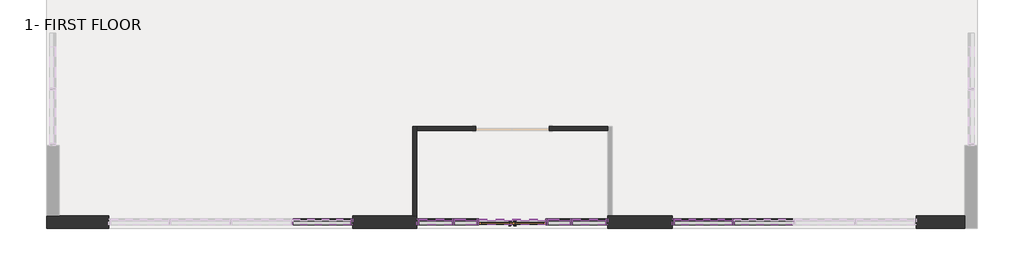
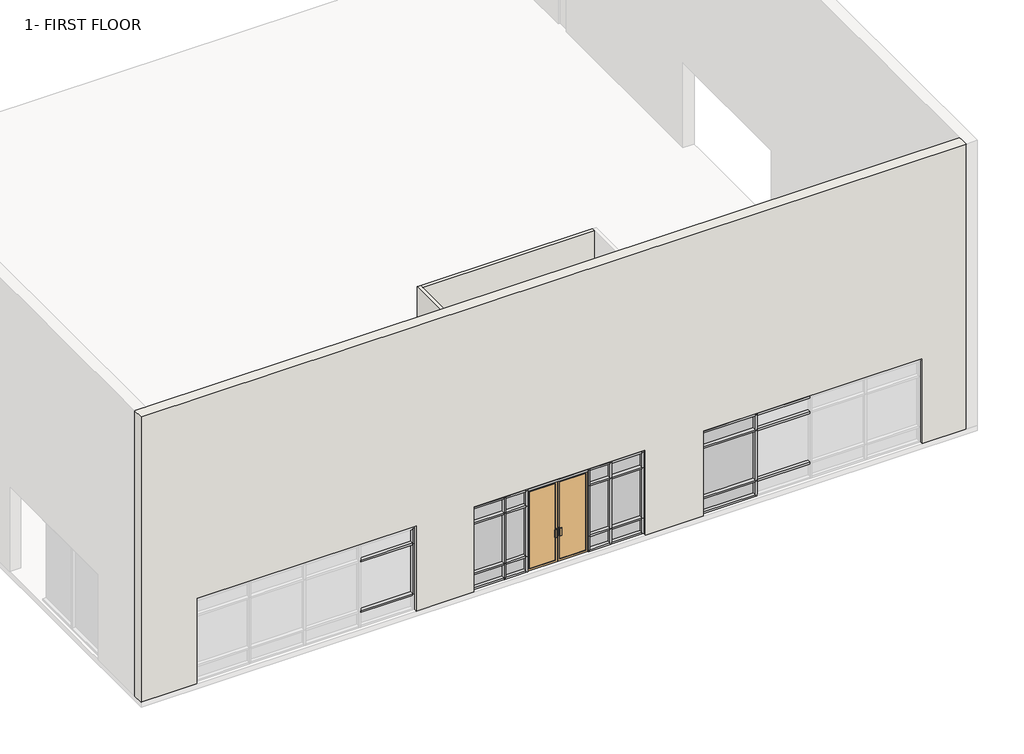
# One storey, part 2 of 4: 67 members, 21 plates, 3 walls, 1 door.
"""IFC4 building model written with IfcOpenShell, lengths in millimetres."""

from ifc_helpers import new_model, si_unit, frame, origin, place, context, project, spatial, polyline, outline, extrude, faceted_brep, transform, mapped, element, save
from components import door_curtain_wall_double_storefront_door_curtain_wall_double_9c4819b0, rectangular_mullion_50_x_150mm_84181acf, rectangular_mullion_50_x_150mm_a8ea6182, rectangular_mullion_50_x_150mm_ba57f92b, rectangular_mullion_50_x_150mm_e62fc784, rectangular_mullion_50_x_150mm_6cfa6b5a, rectangular_mullion_50_x_150mm_d1bc8d35, rectangular_mullion_50_x_150mm_f682063e, rectangular_mullion_50_x_150mm_d689bbf2, rectangular_mullion_50_x_150mm_372c5efd, rectangular_mullion_50_x_150mm_3e65a84e, rectangular_mullion_50_x_150mm_abe4d200, rectangular_mullion_50_x_150mm_1929d193, rectangular_mullion_50_x_150mm_e5e1dcca, rectangular_mullion_50_x_150mm_686aa266, rectangular_mullion_50_x_150mm_8236aad0, rectangular_mullion_50_x_150mm_3b5711fc, system_panel_glazed_f154e865, system_panel_glazed_82870b35, system_panel_glazed_7ab80184, system_panel_glazed_378a796b, system_panel_glazed_7ee34cb0, system_panel_glazed_bfac3f35, system_panel_glazed_7bd62287, system_panel_glazed_4b0897f9, system_panel_glazed_4d81ba74, system_panel_glazed_bda3f379, system_panel_glazed_802e9393, system_panel_glazed_bf61f423, system_panel_glazed_3f87003b

model = new_model("IFC4")

# Units and contexts
model_context = context("Model", 3, world=origin())
ifc_project = project(units=[si_unit("LENGTHUNIT", "METRE", prefix="MILLI")], contexts=[model_context])

# Site, building, storey
site = spatial("IfcSite", under=ifc_project)
building = spatial("IfcBuilding", under=site)
storey = spatial("IfcBuildingStorey", under=building, Name="1- FIRST FLOOR", Elevation=0.0)

# Door
placement = place(None, origin())
door_curtain_wall_double_storefront_door_curtain_wall_double_shape = door_curtain_wall_double_storefront_door_curtain_wall_double_9c4819b0(model_context)
element("IfcDoor", 1, ObjectType="Door-Curtain-Wall-Double-Storefront : Door-Curtain-Wall-Double-Storefront", at=placement, inside=storey, context=model_context, shape_type="MappedRepresentation", body=[
    mapped(door_curtain_wall_double_storefront_door_curtain_wall_double_shape, transform((-5903.5879871, -12710.1838332, 0.0), x_axis=(1.0, 0.0, 0.0), y_axis=(0.0, 1.0, 0.0), z_axis=(0.0, 0.0, 1.0))),
])

# Members
rectangular_mullion_50_x_150mm_shape = rectangular_mullion_50_x_150mm_84181acf(model_context)
element("IfcMember", 2, ObjectType="Rectangular Mullion : 50 x 150mm", at=placement, inside=storey, context=model_context, shape_type="MappedRepresentation", body=[
    mapped(rectangular_mullion_50_x_150mm_shape, transform((-6767.1879871, -12710.1838332, 2400.0), x_axis=(1.0, 0.0, 0.0), y_axis=(0.0, -1.0, 0.0), z_axis=(0.0, 0.0, -1.0))),
])
element("IfcMember", 3, ObjectType="Rectangular Mullion : 50 x 150mm", at=placement, inside=storey, context=model_context, shape_type="MappedRepresentation", body=[
    mapped(rectangular_mullion_50_x_150mm_shape, transform((-5039.9879871, -12710.1838332, 2400.0), x_axis=(1.0, 0.0, 0.0), y_axis=(0.0, -1.0, 0.0), z_axis=(0.0, 0.0, -1.0))),
])
element("IfcMember", 4, ObjectType="Rectangular Mullion : 50 x 150mm", at=placement, inside=storey, context=model_context, shape_type="MappedRepresentation", body=[
    mapped(rectangular_mullion_50_x_150mm_shape, transform((-4430.3879871, -12710.1838332, 2400.0), x_axis=(1.0, 0.0, 0.0), y_axis=(0.0, -1.0, 0.0), z_axis=(0.0, 0.0, -1.0))),
])
element("IfcMember", 5, ObjectType="Rectangular Mullion : 50 x 150mm", at=placement, inside=storey, context=model_context, shape_type="MappedRepresentation", body=[
    mapped(rectangular_mullion_50_x_150mm_shape, transform((-7376.7879871, -12710.1838332, 2400.0), x_axis=(1.0, 0.0, 0.0), y_axis=(0.0, -1.0, 0.0), z_axis=(0.0, 0.0, -1.0))),
])
rectangular_mullion_50_x_150mm_2_shape = rectangular_mullion_50_x_150mm_a8ea6182(model_context)
element("IfcMember", 6, ObjectType="Rectangular Mullion : 50 x 150mm", at=placement, inside=storey, context=model_context, shape_type="MappedRepresentation", body=[
    mapped(rectangular_mullion_50_x_150mm_2_shape, transform((-3515.9879871, -12710.1838332, 2400.0), x_axis=(1.0, 0.0, 0.0), y_axis=(0.0, -1.0, 0.0), z_axis=(0.0, 0.0, -1.0))),
])
element("IfcMember", 7, ObjectType="Rectangular Mullion : 50 x 150mm", at=placement, inside=storey, context=model_context, shape_type="MappedRepresentation", body=[
    mapped(rectangular_mullion_50_x_150mm_2_shape, transform((-8291.1879871, -12710.1838332, 2508.25), x_axis=(-1.0, 0.0, 0.0), y_axis=(0.0, -1.0, 0.0), z_axis=(0.0, 0.0, 1.0))),
])
element("IfcMember", 8, ObjectType="Rectangular Mullion : 50 x 150mm", at=placement, inside=storey, context=model_context, shape_type="MappedRepresentation", body=[
    mapped(rectangular_mullion_50_x_150mm_shape, transform((-389.787987, -12710.1838332, 2400.0), x_axis=(-1.0, 0.0, 0.0), y_axis=(0.0, 1.0, 0.0), z_axis=(0.0, 0.0, -1.0))),
])
element("IfcMember", 9, ObjectType="Rectangular Mullion : 50 x 150mm", at=placement, inside=storey, context=model_context, shape_type="MappedRepresentation", body=[
    mapped(rectangular_mullion_50_x_150mm_2_shape, transform((-1913.7879871, -12710.1838332, 2400.0), x_axis=(-1.0, 0.0, 0.0), y_axis=(0.0, 1.0, 0.0), z_axis=(0.0, 0.0, -1.0))),
])
rectangular_mullion_50_x_150mm_3_shape = rectangular_mullion_50_x_150mm_ba57f92b(model_context)
element("IfcMember", 10, ObjectType="Rectangular Mullion : 50 x 150mm", at=placement, inside=storey, context=model_context, shape_type="MappedRepresentation", body=[
    mapped(rectangular_mullion_50_x_150mm_3_shape, transform((-3565.9879871, -12710.1838332, 2508.25), x_axis=(0.0, 0.0, 1.0), y_axis=(0.0, -1.0, 0.0), z_axis=(1.0, 0.0, 0.0))),
])
element("IfcMember", 11, ObjectType="Rectangular Mullion : 50 x 150mm", at=placement, inside=storey, context=model_context, shape_type="MappedRepresentation", body=[
    mapped(rectangular_mullion_50_x_150mm_3_shape, transform((-7401.7879871, -12710.1838332, 2508.25), x_axis=(0.0, 0.0, 1.0), y_axis=(0.0, -1.0, 0.0), z_axis=(1.0, 0.0, 0.0))),
])
element("IfcMember", 12, ObjectType="Rectangular Mullion : 50 x 150mm", at=placement, inside=storey, context=model_context, shape_type="MappedRepresentation", body=[
    mapped(rectangular_mullion_50_x_150mm_3_shape, transform((-8241.1879871, -12710.1838332, 0.0), x_axis=(0.0, 0.0, -1.0), y_axis=(0.0, -1.0, 0.0), z_axis=(-1.0, 0.0, 0.0))),
])
element("IfcMember", 13, ObjectType="Rectangular Mullion : 50 x 150mm", at=placement, inside=storey, context=model_context, shape_type="MappedRepresentation", body=[
    mapped(rectangular_mullion_50_x_150mm_3_shape, transform((-4405.3879871, -12710.1838332, 0.0), x_axis=(0.0, 0.0, -1.0), y_axis=(0.0, -1.0, 0.0), z_axis=(-1.0, 0.0, 0.0))),
])
rectangular_mullion_50_x_150mm_4_shape = rectangular_mullion_50_x_150mm_e62fc784(model_context)
element("IfcMember", 14, ObjectType="Rectangular Mullion : 50 x 150mm", at=placement, inside=storey, context=model_context, shape_type="MappedRepresentation", body=[
    mapped(rectangular_mullion_50_x_150mm_4_shape, transform((-7401.7879871, -12710.1838332, 2400.0), x_axis=(0.0, 0.0, 1.0), y_axis=(0.0, -1.0, 0.0), z_axis=(1.0, 0.0, 0.0))),
])
element("IfcMember", 15, ObjectType="Rectangular Mullion : 50 x 150mm", at=placement, inside=storey, context=model_context, shape_type="MappedRepresentation", body=[
    mapped(rectangular_mullion_50_x_150mm_4_shape, transform((-3565.9879871, -12710.1838332, 2400.0), x_axis=(0.0, 0.0, 1.0), y_axis=(0.0, -1.0, 0.0), z_axis=(1.0, 0.0, 0.0))),
])
element("IfcMember", 16, ObjectType="Rectangular Mullion : 50 x 150mm", at=placement, inside=storey, context=model_context, shape_type="MappedRepresentation", body=[
    mapped(rectangular_mullion_50_x_150mm_4_shape, transform((-7401.7879871, -12710.1838332, 1942.8), x_axis=(0.0, 0.0, 1.0), y_axis=(0.0, -1.0, 0.0), z_axis=(1.0, 0.0, 0.0))),
])
element("IfcMember", 17, ObjectType="Rectangular Mullion : 50 x 150mm", at=placement, inside=storey, context=model_context, shape_type="MappedRepresentation", body=[
    mapped(rectangular_mullion_50_x_150mm_4_shape, transform((-3565.9879871, -12710.1838332, 1942.8), x_axis=(0.0, 0.0, 1.0), y_axis=(0.0, -1.0, 0.0), z_axis=(1.0, 0.0, 0.0))),
])
element("IfcMember", 18, ObjectType="Rectangular Mullion : 50 x 150mm", at=placement, inside=storey, context=model_context, shape_type="MappedRepresentation", body=[
    mapped(rectangular_mullion_50_x_150mm_4_shape, transform((-7401.7879871, -12710.1838332, 457.2), x_axis=(0.0, 0.0, 1.0), y_axis=(0.0, -1.0, 0.0), z_axis=(1.0, 0.0, 0.0))),
])
element("IfcMember", 19, ObjectType="Rectangular Mullion : 50 x 150mm", at=placement, inside=storey, context=model_context, shape_type="MappedRepresentation", body=[
    mapped(rectangular_mullion_50_x_150mm_4_shape, transform((-3565.9879871, -12710.1838332, 457.2), x_axis=(0.0, 0.0, 1.0), y_axis=(0.0, -1.0, 0.0), z_axis=(1.0, 0.0, 0.0))),
])
rectangular_mullion_50_x_150mm_5_shape = rectangular_mullion_50_x_150mm_6cfa6b5a(model_context)
element("IfcMember", 20, ObjectType="Rectangular Mullion : 50 x 150mm", at=placement, inside=storey, context=model_context, shape_type="MappedRepresentation", body=[
    mapped(rectangular_mullion_50_x_150mm_5_shape, transform((-6792.1879871, -12710.1838332, 2508.25), x_axis=(0.0, 0.0, 1.0), y_axis=(0.0, -1.0, 0.0), z_axis=(1.0, 0.0, 0.0))),
])
element("IfcMember", 21, ObjectType="Rectangular Mullion : 50 x 150mm", at=placement, inside=storey, context=model_context, shape_type="MappedRepresentation", body=[
    mapped(rectangular_mullion_50_x_150mm_5_shape, transform((-4455.3879871, -12710.1838332, 2508.25), x_axis=(0.0, 0.0, 1.0), y_axis=(0.0, -1.0, 0.0), z_axis=(1.0, 0.0, 0.0))),
])
element("IfcMember", 22, ObjectType="Rectangular Mullion : 50 x 150mm", at=placement, inside=storey, context=model_context, shape_type="MappedRepresentation", body=[
    mapped(rectangular_mullion_50_x_150mm_5_shape, transform((-5014.9879871, -12710.1838332, 0.0), x_axis=(0.0, 0.0, -1.0), y_axis=(0.0, -1.0, 0.0), z_axis=(-1.0, 0.0, 0.0))),
])
element("IfcMember", 23, ObjectType="Rectangular Mullion : 50 x 150mm", at=placement, inside=storey, context=model_context, shape_type="MappedRepresentation", body=[
    mapped(rectangular_mullion_50_x_150mm_5_shape, transform((-7351.7879871, -12710.1838332, 0.0), x_axis=(0.0, 0.0, -1.0), y_axis=(0.0, -1.0, 0.0), z_axis=(-1.0, 0.0, 0.0))),
])
rectangular_mullion_50_x_150mm_6_shape = rectangular_mullion_50_x_150mm_d1bc8d35(model_context)
element("IfcMember", 24, ObjectType="Rectangular Mullion : 50 x 150mm", at=placement, inside=storey, context=model_context, shape_type="MappedRepresentation", body=[
    mapped(rectangular_mullion_50_x_150mm_6_shape, transform((-4455.3879871, -12710.1838332, 2400.0), x_axis=(0.0, 0.0, 1.0), y_axis=(0.0, -1.0, 0.0), z_axis=(1.0, 0.0, 0.0))),
])
element("IfcMember", 25, ObjectType="Rectangular Mullion : 50 x 150mm", at=placement, inside=storey, context=model_context, shape_type="MappedRepresentation", body=[
    mapped(rectangular_mullion_50_x_150mm_6_shape, transform((-6792.1879871, -12710.1838332, 2400.0), x_axis=(0.0, 0.0, 1.0), y_axis=(0.0, -1.0, 0.0), z_axis=(1.0, 0.0, 0.0))),
])
element("IfcMember", 26, ObjectType="Rectangular Mullion : 50 x 150mm", at=placement, inside=storey, context=model_context, shape_type="MappedRepresentation", body=[
    mapped(rectangular_mullion_50_x_150mm_6_shape, transform((-6792.1879871, -12710.1838332, 1942.8), x_axis=(0.0, 0.0, 1.0), y_axis=(0.0, -1.0, 0.0), z_axis=(1.0, 0.0, 0.0))),
])
element("IfcMember", 27, ObjectType="Rectangular Mullion : 50 x 150mm", at=placement, inside=storey, context=model_context, shape_type="MappedRepresentation", body=[
    mapped(rectangular_mullion_50_x_150mm_6_shape, transform((-4455.3879871, -12710.1838332, 1942.8), x_axis=(0.0, 0.0, 1.0), y_axis=(0.0, -1.0, 0.0), z_axis=(1.0, 0.0, 0.0))),
])
element("IfcMember", 28, ObjectType="Rectangular Mullion : 50 x 150mm", at=placement, inside=storey, context=model_context, shape_type="MappedRepresentation", body=[
    mapped(rectangular_mullion_50_x_150mm_6_shape, transform((-6792.1879871, -12710.1838332, 457.2), x_axis=(0.0, 0.0, 1.0), y_axis=(0.0, -1.0, 0.0), z_axis=(1.0, 0.0, 0.0))),
])
element("IfcMember", 29, ObjectType="Rectangular Mullion : 50 x 150mm", at=placement, inside=storey, context=model_context, shape_type="MappedRepresentation", body=[
    mapped(rectangular_mullion_50_x_150mm_6_shape, transform((-4455.3879871, -12710.1838332, 457.2), x_axis=(0.0, 0.0, 1.0), y_axis=(0.0, -1.0, 0.0), z_axis=(1.0, 0.0, 0.0))),
])
rectangular_mullion_50_x_150mm_7_shape = rectangular_mullion_50_x_150mm_f682063e(model_context)
element("IfcMember", 30, ObjectType="Rectangular Mullion : 50 x 150mm", at=placement, inside=storey, context=model_context, shape_type="MappedRepresentation", body=[
    mapped(rectangular_mullion_50_x_150mm_7_shape, transform((-5064.9879871, -12710.1838332, 2508.25), x_axis=(0.0, 0.0, 1.0), y_axis=(0.0, -1.0, 0.0), z_axis=(1.0, 0.0, 0.0))),
])
rectangular_mullion_50_x_150mm_8_shape = rectangular_mullion_50_x_150mm_d689bbf2(model_context)
element("IfcMember", 31, ObjectType="Rectangular Mullion : 50 x 150mm", at=placement, inside=storey, context=model_context, shape_type="MappedRepresentation", body=[
    mapped(rectangular_mullion_50_x_150mm_8_shape, transform((-5064.9879871, -12710.1838332, 2400.0), x_axis=(0.0, 0.0, 1.0), y_axis=(0.0, -1.0, 0.0), z_axis=(1.0, 0.0, 0.0))),
])
rectangular_mullion_50_x_150mm_9_shape = rectangular_mullion_50_x_150mm_372c5efd(model_context)
element("IfcMember", 32, ObjectType="Rectangular Mullion : 50 x 150mm", at=placement, inside=storey, context=model_context, shape_type="MappedRepresentation", body=[
    mapped(rectangular_mullion_50_x_150mm_9_shape, transform((-9943.3879871, -12710.1838332, 1942.8), x_axis=(0.0, 0.0, 1.0), y_axis=(0.0, -1.0, 0.0), z_axis=(1.0, 0.0, 0.0))),
])
element("IfcMember", 33, ObjectType="Rectangular Mullion : 50 x 150mm", at=placement, inside=storey, context=model_context, shape_type="MappedRepresentation", body=[
    mapped(rectangular_mullion_50_x_150mm_9_shape, transform((-9943.3879871, -12710.1838332, 457.2), x_axis=(0.0, 0.0, 1.0), y_axis=(0.0, -1.0, 0.0), z_axis=(1.0, 0.0, 0.0))),
])
rectangular_mullion_50_x_150mm_10_shape = rectangular_mullion_50_x_150mm_3e65a84e(model_context)
element("IfcMember", 34, ObjectType="Rectangular Mullion : 50 x 150mm", at=placement, inside=storey, context=model_context, shape_type="MappedRepresentation", body=[
    mapped(rectangular_mullion_50_x_150mm_10_shape, transform((-1863.7879871, -12710.1838332, 2508.25), x_axis=(0.0, 0.0, 1.0), y_axis=(0.0, 1.0, 0.0), z_axis=(-1.0, 0.0, 0.0))),
])
rectangular_mullion_50_x_150mm_11_shape = rectangular_mullion_50_x_150mm_abe4d200(model_context)
element("IfcMember", 35, ObjectType="Rectangular Mullion : 50 x 150mm", at=placement, inside=storey, context=model_context, shape_type="MappedRepresentation", body=[
    mapped(rectangular_mullion_50_x_150mm_11_shape, transform((-364.787987, -12710.1838332, 2508.25), x_axis=(0.0, 0.0, 1.0), y_axis=(0.0, 1.0, 0.0), z_axis=(-1.0, 0.0, 0.0))),
])
element("IfcMember", 36, ObjectType="Rectangular Mullion : 50 x 150mm", at=placement, inside=storey, context=model_context, shape_type="MappedRepresentation", body=[
    mapped(rectangular_mullion_50_x_150mm_10_shape, transform((-414.787987, -12710.1838332, 0.0), x_axis=(0.0, 0.0, -1.0), y_axis=(0.0, 1.0, 0.0), z_axis=(1.0, 0.0, 0.0))),
])
element("IfcMember", 37, ObjectType="Rectangular Mullion : 50 x 150mm", at=placement, inside=storey, context=model_context, shape_type="MappedRepresentation", body=[
    mapped(rectangular_mullion_50_x_150mm_9_shape, transform((-1863.7879871, -12710.1838332, 2400.0), x_axis=(0.0, 0.0, 1.0), y_axis=(0.0, 1.0, 0.0), z_axis=(-1.0, 0.0, 0.0))),
])
rectangular_mullion_50_x_150mm_12_shape = rectangular_mullion_50_x_150mm_1929d193(model_context)
element("IfcMember", 38, ObjectType="Rectangular Mullion : 50 x 150mm", at=placement, inside=storey, context=model_context, shape_type="MappedRepresentation", body=[
    mapped(rectangular_mullion_50_x_150mm_12_shape, transform((-364.787987, -12710.1838332, 2400.0), x_axis=(0.0, 0.0, 1.0), y_axis=(0.0, 1.0, 0.0), z_axis=(-1.0, 0.0, 0.0))),
])
rectangular_mullion_50_x_150mm_13_shape = rectangular_mullion_50_x_150mm_e5e1dcca(model_context)
element("IfcMember", 39, ObjectType="Rectangular Mullion : 50 x 150mm", at=placement, inside=storey, context=model_context, shape_type="MappedRepresentation", body=[
    mapped(rectangular_mullion_50_x_150mm_13_shape, transform((-7376.7879871, -12710.1838332, 1942.8), x_axis=(1.0, 0.0, 0.0), y_axis=(0.0, -1.0, 0.0), z_axis=(0.0, 0.0, -1.0))),
])
element("IfcMember", 40, ObjectType="Rectangular Mullion : 50 x 150mm", at=placement, inside=storey, context=model_context, shape_type="MappedRepresentation", body=[
    mapped(rectangular_mullion_50_x_150mm_13_shape, transform((-6767.1879871, -12710.1838332, 1942.8), x_axis=(1.0, 0.0, 0.0), y_axis=(0.0, -1.0, 0.0), z_axis=(0.0, 0.0, -1.0))),
])
element("IfcMember", 41, ObjectType="Rectangular Mullion : 50 x 150mm", at=placement, inside=storey, context=model_context, shape_type="MappedRepresentation", body=[
    mapped(rectangular_mullion_50_x_150mm_13_shape, transform((-5039.9879871, -12710.1838332, 1942.8), x_axis=(1.0, 0.0, 0.0), y_axis=(0.0, -1.0, 0.0), z_axis=(0.0, 0.0, -1.0))),
])
element("IfcMember", 42, ObjectType="Rectangular Mullion : 50 x 150mm", at=placement, inside=storey, context=model_context, shape_type="MappedRepresentation", body=[
    mapped(rectangular_mullion_50_x_150mm_13_shape, transform((-4430.3879871, -12710.1838332, 1942.8), x_axis=(1.0, 0.0, 0.0), y_axis=(0.0, -1.0, 0.0), z_axis=(0.0, 0.0, -1.0))),
])
rectangular_mullion_50_x_150mm_14_shape = rectangular_mullion_50_x_150mm_686aa266(model_context)
element("IfcMember", 43, ObjectType="Rectangular Mullion : 50 x 150mm", at=placement, inside=storey, context=model_context, shape_type="MappedRepresentation", body=[
    mapped(rectangular_mullion_50_x_150mm_14_shape, transform((-8291.1879871, -12710.1838332, 2400.0), x_axis=(-1.0, 0.0, 0.0), y_axis=(0.0, -1.0, 0.0), z_axis=(0.0, 0.0, 1.0))),
])
element("IfcMember", 44, ObjectType="Rectangular Mullion : 50 x 150mm", at=placement, inside=storey, context=model_context, shape_type="MappedRepresentation", body=[
    mapped(rectangular_mullion_50_x_150mm_14_shape, transform((-9893.3879871, -12710.1838332, 1942.8), x_axis=(1.0, 0.0, 0.0), y_axis=(0.0, -1.0, 0.0), z_axis=(0.0, 0.0, -1.0))),
])
element("IfcMember", 45, ObjectType="Rectangular Mullion : 50 x 150mm", at=placement, inside=storey, context=model_context, shape_type="MappedRepresentation", body=[
    mapped(rectangular_mullion_50_x_150mm_14_shape, transform((-3515.9879871, -12710.1838332, 1942.8), x_axis=(1.0, 0.0, 0.0), y_axis=(0.0, -1.0, 0.0), z_axis=(0.0, 0.0, -1.0))),
])
element("IfcMember", 46, ObjectType="Rectangular Mullion : 50 x 150mm", at=placement, inside=storey, context=model_context, shape_type="MappedRepresentation", body=[
    mapped(rectangular_mullion_50_x_150mm_13_shape, transform((-6767.1879871, -12710.1838332, 0.0), x_axis=(1.0, 0.0, 0.0), y_axis=(0.0, -1.0, 0.0), z_axis=(0.0, 0.0, -1.0))),
])
element("IfcMember", 47, ObjectType="Rectangular Mullion : 50 x 150mm", at=placement, inside=storey, context=model_context, shape_type="MappedRepresentation", body=[
    mapped(rectangular_mullion_50_x_150mm_13_shape, transform((-5039.9879871, -12710.1838332, 0.0), x_axis=(1.0, 0.0, 0.0), y_axis=(0.0, -1.0, 0.0), z_axis=(0.0, 0.0, -1.0))),
])
element("IfcMember", 48, ObjectType="Rectangular Mullion : 50 x 150mm", at=placement, inside=storey, context=model_context, shape_type="MappedRepresentation", body=[
    mapped(rectangular_mullion_50_x_150mm_13_shape, transform((-4430.3879871, -12710.1838332, 0.0), x_axis=(1.0, 0.0, 0.0), y_axis=(0.0, -1.0, 0.0), z_axis=(0.0, 0.0, -1.0))),
])
element("IfcMember", 49, ObjectType="Rectangular Mullion : 50 x 150mm", at=placement, inside=storey, context=model_context, shape_type="MappedRepresentation", body=[
    mapped(rectangular_mullion_50_x_150mm_13_shape, transform((-7376.7879871, -12710.1838332, 0.0), x_axis=(1.0, 0.0, 0.0), y_axis=(0.0, -1.0, 0.0), z_axis=(0.0, 0.0, -1.0))),
])
rectangular_mullion_50_x_150mm_15_shape = rectangular_mullion_50_x_150mm_8236aad0(model_context)
element("IfcMember", 50, ObjectType="Rectangular Mullion : 50 x 150mm", at=placement, inside=storey, context=model_context, shape_type="MappedRepresentation", body=[
    mapped(rectangular_mullion_50_x_150mm_15_shape, transform((-7376.7879871, -12710.1838332, 457.2), x_axis=(1.0, 0.0, 0.0), y_axis=(0.0, -1.0, 0.0), z_axis=(0.0, 0.0, -1.0))),
])
element("IfcMember", 51, ObjectType="Rectangular Mullion : 50 x 150mm", at=placement, inside=storey, context=model_context, shape_type="MappedRepresentation", body=[
    mapped(rectangular_mullion_50_x_150mm_15_shape, transform((-6767.1879871, -12710.1838332, 457.2), x_axis=(1.0, 0.0, 0.0), y_axis=(0.0, -1.0, 0.0), z_axis=(0.0, 0.0, -1.0))),
])
element("IfcMember", 52, ObjectType="Rectangular Mullion : 50 x 150mm", at=placement, inside=storey, context=model_context, shape_type="MappedRepresentation", body=[
    mapped(rectangular_mullion_50_x_150mm_15_shape, transform((-5039.9879871, -12710.1838332, 457.2), x_axis=(1.0, 0.0, 0.0), y_axis=(0.0, -1.0, 0.0), z_axis=(0.0, 0.0, -1.0))),
])
element("IfcMember", 53, ObjectType="Rectangular Mullion : 50 x 150mm", at=placement, inside=storey, context=model_context, shape_type="MappedRepresentation", body=[
    mapped(rectangular_mullion_50_x_150mm_15_shape, transform((-4430.3879871, -12710.1838332, 457.2), x_axis=(1.0, 0.0, 0.0), y_axis=(0.0, -1.0, 0.0), z_axis=(0.0, 0.0, -1.0))),
])
element("IfcMember", 54, ObjectType="Rectangular Mullion : 50 x 150mm", at=placement, inside=storey, context=model_context, shape_type="MappedRepresentation", body=[
    mapped(rectangular_mullion_50_x_150mm_14_shape, transform((-3515.9879871, -12710.1838332, 0.0), x_axis=(1.0, 0.0, 0.0), y_axis=(0.0, -1.0, 0.0), z_axis=(0.0, 0.0, -1.0))),
])
rectangular_mullion_50_x_150mm_16_shape = rectangular_mullion_50_x_150mm_3b5711fc(model_context)
element("IfcMember", 55, ObjectType="Rectangular Mullion : 50 x 150mm", at=placement, inside=storey, context=model_context, shape_type="MappedRepresentation", body=[
    mapped(rectangular_mullion_50_x_150mm_16_shape, transform((-8291.1879871, -12710.1838332, 1942.8), x_axis=(-1.0, 0.0, 0.0), y_axis=(0.0, -1.0, 0.0), z_axis=(0.0, 0.0, 1.0))),
])
element("IfcMember", 56, ObjectType="Rectangular Mullion : 50 x 150mm", at=placement, inside=storey, context=model_context, shape_type="MappedRepresentation", body=[
    mapped(rectangular_mullion_50_x_150mm_16_shape, transform((-9893.3879871, -12710.1838332, 457.2), x_axis=(1.0, 0.0, 0.0), y_axis=(0.0, -1.0, 0.0), z_axis=(0.0, 0.0, -1.0))),
])
element("IfcMember", 57, ObjectType="Rectangular Mullion : 50 x 150mm", at=placement, inside=storey, context=model_context, shape_type="MappedRepresentation", body=[
    mapped(rectangular_mullion_50_x_150mm_16_shape, transform((-3515.9879871, -12710.1838332, 457.2), x_axis=(1.0, 0.0, 0.0), y_axis=(0.0, -1.0, 0.0), z_axis=(0.0, 0.0, -1.0))),
])
element("IfcMember", 58, ObjectType="Rectangular Mullion : 50 x 150mm", at=placement, inside=storey, context=model_context, shape_type="MappedRepresentation", body=[
    mapped(rectangular_mullion_50_x_150mm_14_shape, transform((-8291.1879871, -12710.1838332, 457.2), x_axis=(-1.0, 0.0, 0.0), y_axis=(0.0, -1.0, 0.0), z_axis=(0.0, 0.0, 1.0))),
])
element("IfcMember", 59, ObjectType="Rectangular Mullion : 50 x 150mm", at=placement, inside=storey, context=model_context, shape_type="MappedRepresentation", body=[
    mapped(rectangular_mullion_50_x_150mm_9_shape, transform((-1863.7879871, -12710.1838332, 1942.8), x_axis=(0.0, 0.0, 1.0), y_axis=(0.0, 1.0, 0.0), z_axis=(-1.0, 0.0, 0.0))),
])
element("IfcMember", 60, ObjectType="Rectangular Mullion : 50 x 150mm", at=placement, inside=storey, context=model_context, shape_type="MappedRepresentation", body=[
    mapped(rectangular_mullion_50_x_150mm_9_shape, transform((-1863.7879871, -12710.1838332, 457.2), x_axis=(0.0, 0.0, 1.0), y_axis=(0.0, 1.0, 0.0), z_axis=(-1.0, 0.0, 0.0))),
])
element("IfcMember", 61, ObjectType="Rectangular Mullion : 50 x 150mm", at=placement, inside=storey, context=model_context, shape_type="MappedRepresentation", body=[
    mapped(rectangular_mullion_50_x_150mm_12_shape, transform((-364.787987, -12710.1838332, 1942.8), x_axis=(0.0, 0.0, 1.0), y_axis=(0.0, 1.0, 0.0), z_axis=(-1.0, 0.0, 0.0))),
])
element("IfcMember", 62, ObjectType="Rectangular Mullion : 50 x 150mm", at=placement, inside=storey, context=model_context, shape_type="MappedRepresentation", body=[
    mapped(rectangular_mullion_50_x_150mm_12_shape, transform((-364.787987, -12710.1838332, 457.2), x_axis=(0.0, 0.0, 1.0), y_axis=(0.0, 1.0, 0.0), z_axis=(-1.0, 0.0, 0.0))),
])
element("IfcMember", 63, ObjectType="Rectangular Mullion : 50 x 150mm", at=placement, inside=storey, context=model_context, shape_type="MappedRepresentation", body=[
    mapped(rectangular_mullion_50_x_150mm_13_shape, transform((-389.787987, -12710.1838332, 1942.8), x_axis=(-1.0, 0.0, 0.0), y_axis=(0.0, 1.0, 0.0), z_axis=(0.0, 0.0, -1.0))),
])
element("IfcMember", 64, ObjectType="Rectangular Mullion : 50 x 150mm", at=placement, inside=storey, context=model_context, shape_type="MappedRepresentation", body=[
    mapped(rectangular_mullion_50_x_150mm_14_shape, transform((-1913.7879871, -12710.1838332, 1942.8), x_axis=(-1.0, 0.0, 0.0), y_axis=(0.0, 1.0, 0.0), z_axis=(0.0, 0.0, -1.0))),
])
element("IfcMember", 65, ObjectType="Rectangular Mullion : 50 x 150mm", at=placement, inside=storey, context=model_context, shape_type="MappedRepresentation", body=[
    mapped(rectangular_mullion_50_x_150mm_13_shape, transform((-389.787987, -12710.1838332, 0.0), x_axis=(-1.0, 0.0, 0.0), y_axis=(0.0, 1.0, 0.0), z_axis=(0.0, 0.0, -1.0))),
])
element("IfcMember", 66, ObjectType="Rectangular Mullion : 50 x 150mm", at=placement, inside=storey, context=model_context, shape_type="MappedRepresentation", body=[
    mapped(rectangular_mullion_50_x_150mm_15_shape, transform((-389.787987, -12710.1838332, 457.2), x_axis=(-1.0, 0.0, 0.0), y_axis=(0.0, 1.0, 0.0), z_axis=(0.0, 0.0, -1.0))),
])
element("IfcMember", 67, ObjectType="Rectangular Mullion : 50 x 150mm", at=placement, inside=storey, context=model_context, shape_type="MappedRepresentation", body=[
    mapped(rectangular_mullion_50_x_150mm_14_shape, transform((-1913.7879871, -12710.1838332, 0.0), x_axis=(-1.0, 0.0, 0.0), y_axis=(0.0, 1.0, 0.0), z_axis=(0.0, 0.0, -1.0))),
])
element("IfcMember", 68, ObjectType="Rectangular Mullion : 50 x 150mm", at=placement, inside=storey, context=model_context, shape_type="MappedRepresentation", body=[
    mapped(rectangular_mullion_50_x_150mm_16_shape, transform((-1913.7879871, -12710.1838332, 457.2), x_axis=(-1.0, 0.0, 0.0), y_axis=(0.0, 1.0, 0.0), z_axis=(0.0, 0.0, -1.0))),
])

# Plates
system_panel_glazed_shape = system_panel_glazed_f154e865(model_context)
element("IfcPlate", 69, ObjectType="System Panel : Glazed", at=placement, inside=storey, context=model_context, shape_type="MappedRepresentation", body=[
    mapped(system_panel_glazed_shape, transform((-7821.4879871, -12710.1838332, 2425.0), x_axis=(1.0, 0.0, 0.0), y_axis=(0.0, 1.0, 0.0), z_axis=(0.0, 0.0, 1.0))),
])
element("IfcPlate", 70, ObjectType="System Panel : Glazed", at=placement, inside=storey, context=model_context, shape_type="MappedRepresentation", body=[
    mapped(system_panel_glazed_shape, transform((-3985.6879871, -12710.1838332, 2425.0), x_axis=(1.0, 0.0, 0.0), y_axis=(0.0, 1.0, 0.0), z_axis=(0.0, 0.0, 1.0))),
])
system_panel_glazed_2_shape = system_panel_glazed_82870b35(model_context)
element("IfcPlate", 71, ObjectType="System Panel : Glazed", at=placement, inside=storey, context=model_context, shape_type="MappedRepresentation", body=[
    mapped(system_panel_glazed_2_shape, transform((-4735.1879871, -12710.1838332, 2425.0), x_axis=(1.0, 0.0, 0.0), y_axis=(0.0, 1.0, 0.0), z_axis=(0.0, 0.0, 1.0))),
])
element("IfcPlate", 72, ObjectType="System Panel : Glazed", at=placement, inside=storey, context=model_context, shape_type="MappedRepresentation", body=[
    mapped(system_panel_glazed_2_shape, transform((-7071.9879871, -12710.1838332, 2425.0), x_axis=(1.0, 0.0, 0.0), y_axis=(0.0, 1.0, 0.0), z_axis=(0.0, 0.0, 1.0))),
])
system_panel_glazed_3_shape = system_panel_glazed_7ab80184(model_context)
element("IfcPlate", 73, ObjectType="System Panel : Glazed", at=placement, inside=storey, context=model_context, shape_type="MappedRepresentation", body=[
    mapped(system_panel_glazed_3_shape, transform((-5903.5879871, -12710.1838332, 2425.0), x_axis=(1.0, 0.0, 0.0), y_axis=(0.0, 1.0, 0.0), z_axis=(0.0, 0.0, 1.0))),
])
system_panel_glazed_4_shape = system_panel_glazed_378a796b(model_context)
element("IfcPlate", 74, ObjectType="System Panel : Glazed", at=placement, inside=storey, context=model_context, shape_type="MappedRepresentation", body=[
    mapped(system_panel_glazed_4_shape, transform((-1139.287987, -12710.1838332, 2425.0), x_axis=(-1.0, 0.0, 0.0), y_axis=(0.0, -1.0, 0.0), z_axis=(0.0, 0.0, 1.0))),
])
system_panel_glazed_5_shape = system_panel_glazed_7ee34cb0(model_context)
element("IfcPlate", 75, ObjectType="System Panel : Glazed", at=placement, inside=storey, context=model_context, shape_type="MappedRepresentation", body=[
    mapped(system_panel_glazed_5_shape, transform((-1139.287987, -12710.1838332, 1967.8), x_axis=(-1.0, 0.0, 0.0), y_axis=(0.0, -1.0, 0.0), z_axis=(0.0, 0.0, 1.0))),
])
system_panel_glazed_6_shape = system_panel_glazed_bfac3f35(model_context)
element("IfcPlate", 76, ObjectType="System Panel : Glazed", at=placement, inside=storey, context=model_context, shape_type="MappedRepresentation", body=[
    mapped(system_panel_glazed_6_shape, transform((-1139.287987, -12710.1838332, 50.0), x_axis=(-1.0, 0.0, 0.0), y_axis=(0.0, -1.0, 0.0), z_axis=(0.0, 0.0, 1.0))),
])
system_panel_glazed_7_shape = system_panel_glazed_7bd62287(model_context)
element("IfcPlate", 77, ObjectType="System Panel : Glazed", at=placement, inside=storey, context=model_context, shape_type="MappedRepresentation", body=[
    mapped(system_panel_glazed_7_shape, transform((-1139.287987, -12710.1838332, 482.2), x_axis=(-1.0, 0.0, 0.0), y_axis=(0.0, -1.0, 0.0), z_axis=(0.0, 0.0, 1.0))),
])
system_panel_glazed_8_shape = system_panel_glazed_4b0897f9(model_context)
element("IfcPlate", 78, ObjectType="System Panel : Glazed", at=placement, inside=storey, context=model_context, shape_type="MappedRepresentation", body=[
    mapped(system_panel_glazed_8_shape, transform((-7821.4879871, -12710.1838332, 1967.8), x_axis=(1.0, 0.0, 0.0), y_axis=(0.0, 1.0, 0.0), z_axis=(0.0, 0.0, 1.0))),
])
element("IfcPlate", 79, ObjectType="System Panel : Glazed", at=placement, inside=storey, context=model_context, shape_type="MappedRepresentation", body=[
    mapped(system_panel_glazed_8_shape, transform((-3985.6879871, -12710.1838332, 1967.8), x_axis=(1.0, 0.0, 0.0), y_axis=(0.0, 1.0, 0.0), z_axis=(0.0, 0.0, 1.0))),
])
system_panel_glazed_9_shape = system_panel_glazed_4d81ba74(model_context)
element("IfcPlate", 80, ObjectType="System Panel : Glazed", at=placement, inside=storey, context=model_context, shape_type="MappedRepresentation", body=[
    mapped(system_panel_glazed_9_shape, transform((-7071.9879871, -12710.1838332, 1967.8), x_axis=(1.0, 0.0, 0.0), y_axis=(0.0, 1.0, 0.0), z_axis=(0.0, 0.0, 1.0))),
])
element("IfcPlate", 81, ObjectType="System Panel : Glazed", at=placement, inside=storey, context=model_context, shape_type="MappedRepresentation", body=[
    mapped(system_panel_glazed_9_shape, transform((-4735.1879871, -12710.1838332, 1967.8), x_axis=(1.0, 0.0, 0.0), y_axis=(0.0, 1.0, 0.0), z_axis=(0.0, 0.0, 1.0))),
])
system_panel_glazed_10_shape = system_panel_glazed_bda3f379(model_context)
element("IfcPlate", 82, ObjectType="System Panel : Glazed", at=placement, inside=storey, context=model_context, shape_type="MappedRepresentation", body=[
    mapped(system_panel_glazed_10_shape, transform((-7821.4879871, -12710.1838332, 50.0), x_axis=(1.0, 0.0, 0.0), y_axis=(0.0, 1.0, 0.0), z_axis=(0.0, 0.0, 1.0))),
])
element("IfcPlate", 83, ObjectType="System Panel : Glazed", at=placement, inside=storey, context=model_context, shape_type="MappedRepresentation", body=[
    mapped(system_panel_glazed_10_shape, transform((-3985.6879871, -12710.1838332, 50.0), x_axis=(1.0, 0.0, 0.0), y_axis=(0.0, 1.0, 0.0), z_axis=(0.0, 0.0, 1.0))),
])
system_panel_glazed_11_shape = system_panel_glazed_802e9393(model_context)
element("IfcPlate", 84, ObjectType="System Panel : Glazed", at=placement, inside=storey, context=model_context, shape_type="MappedRepresentation", body=[
    mapped(system_panel_glazed_11_shape, transform((-4735.1879871, -12710.1838332, 50.0), x_axis=(1.0, 0.0, 0.0), y_axis=(0.0, 1.0, 0.0), z_axis=(0.0, 0.0, 1.0))),
])
element("IfcPlate", 85, ObjectType="System Panel : Glazed", at=placement, inside=storey, context=model_context, shape_type="MappedRepresentation", body=[
    mapped(system_panel_glazed_11_shape, transform((-7071.9879871, -12710.1838332, 50.0), x_axis=(1.0, 0.0, 0.0), y_axis=(0.0, 1.0, 0.0), z_axis=(0.0, 0.0, 1.0))),
])
system_panel_glazed_12_shape = system_panel_glazed_bf61f423(model_context)
element("IfcPlate", 86, ObjectType="System Panel : Glazed", at=placement, inside=storey, context=model_context, shape_type="MappedRepresentation", body=[
    mapped(system_panel_glazed_12_shape, transform((-7821.4879871, -12710.1838332, 482.2), x_axis=(1.0, 0.0, 0.0), y_axis=(0.0, 1.0, 0.0), z_axis=(0.0, 0.0, 1.0))),
])
element("IfcPlate", 87, ObjectType="System Panel : Glazed", at=placement, inside=storey, context=model_context, shape_type="MappedRepresentation", body=[
    mapped(system_panel_glazed_12_shape, transform((-3985.6879871, -12710.1838332, 482.2), x_axis=(1.0, 0.0, 0.0), y_axis=(0.0, 1.0, 0.0), z_axis=(0.0, 0.0, 1.0))),
])
system_panel_glazed_13_shape = system_panel_glazed_3f87003b(model_context)
element("IfcPlate", 88, ObjectType="System Panel : Glazed", at=placement, inside=storey, context=model_context, shape_type="MappedRepresentation", body=[
    mapped(system_panel_glazed_13_shape, transform((-7071.9879871, -12710.1838332, 482.2), x_axis=(1.0, 0.0, 0.0), y_axis=(0.0, 1.0, 0.0), z_axis=(0.0, 0.0, 1.0))),
])
element("IfcPlate", 89, ObjectType="System Panel : Glazed", at=placement, inside=storey, context=model_context, shape_type="MappedRepresentation", body=[
    mapped(system_panel_glazed_13_shape, transform((-4735.1879871, -12710.1838332, 482.2), x_axis=(1.0, 0.0, 0.0), y_axis=(0.0, 1.0, 0.0), z_axis=(0.0, 0.0, 1.0))),
])

# Walls
element("IfcWall", 90, ObjectType="Exterior - BRICK + CMU", at=placement, inside=storey, context=model_context, shape_type="Brep", body=[
    faceted_brep([(-17544.3129871, -12553.0213332, 8385.96875), (-17229.9879871, -12553.0213332, 8385.96875), (5401.4120129, -12553.0213332, 8385.96875), (5401.4120129, -12553.0213332, 0.0), (4182.2120129, -12553.0213332, 0.0), (4182.2120129, -12553.0213332, 2508.25), (-1913.7879871, -12553.0213332, 2508.25), (-1913.7879871, -12553.0213332, 0.0), (-3414.3879871, -12553.0213332, 0.0), (-3515.9879871, -12553.0213332, 0.0), (-3515.9879871, -12553.0213332, 2508.25), (-8291.1879871, -12553.0213332, 2508.25), (-8291.1879871, -12553.0213332, 0.0), (-8392.7879871, -12553.0213332, 0.0), (-9893.3879871, -12553.0213332, 0.0), (-9893.3879871, -12553.0213332, 2508.25), (-15989.3879871, -12553.0213332, 2508.25), (-15989.3879871, -12553.0213332, 0.0), (-17229.9879871, -12553.0213332, 0.0), (-17544.3129871, -12553.0213332, 0.0), (5401.4120129, -12867.3463332, 8385.96875), (-17544.3129871, -12867.3463332, 8385.96875), (-17544.3129871, -12867.3463332, 0.0), (-15989.3879871, -12867.3463332, 0.0), (-15989.3879871, -12867.3463332, 2508.25), (-9893.3879871, -12867.3463332, 2508.25), (-9893.3879871, -12867.3463332, 0.0), (-8291.1879871, -12867.3463332, 0.0), (-8291.1879871, -12867.3463332, 2508.25), (-3515.9879871, -12867.3463332, 2508.25), (-3515.9879871, -12867.3463332, 0.0), (-1913.7879871, -12867.3463332, 0.0), (-1913.7879871, -12867.3463332, 2508.25), (4182.2120129, -12867.3463332, 2508.25), (4182.2120129, -12867.3463332, 0.0), (5401.4120129, -12867.3463332, 0.0)], [[[0, 1, 2, 3, 4, 5, 6, 7, 8, 9, 10, 11, 12, 13, 14, 15, 16, 17, 18, 19]], [[20, 21, 22, 23, 24, 25, 26, 27, 28, 29, 30, 31, 32, 33, 34, 35]], [[3, 35, 34, 4]], [[22, 19, 18, 17, 23]], [[12, 27, 26, 14, 13]], [[30, 9, 8, 7, 31]], [[2, 1, 0, 21, 20]], [[3, 2, 20, 35]], [[0, 19, 22, 21]], [[11, 28, 27, 12]], [[28, 11, 10, 29]], [[29, 10, 9, 30]], [[16, 24, 23, 17]], [[24, 16, 15, 25]], [[25, 15, 14, 26]], [[33, 5, 4, 34]], [[5, 33, 32, 6]], [[6, 32, 31, 7]]]),
])
element("IfcWall", 91, ObjectType="Generic - 4\"", at=placement, inside=storey, context=model_context, shape_type="Brep", body=[
    faceted_brep([(-8291.1879871, -12553.0213332, 0.0), (-8291.1879871, -10419.4213332, 0.0), (-8291.1879871, -10317.8213332, 0.0), (-8291.1879871, -10317.8213332, 7471.56875), (-8291.1879871, -10419.4213332, 7471.56875), (-8291.1879871, -12553.0213332, 7471.56875), (-8291.1879871, -12553.0213332, 2508.25), (-8392.7879871, -12553.0213332, 0.0), (-8392.7879871, -12553.0213332, 7471.56875), (-8392.7879871, -10317.8213332, 7471.56875), (-8392.7879871, -10317.8213332, 0.0)], [[[0, 1, 2, 3, 4, 5, 6]], [[7, 8, 9, 10]], [[2, 1, 0, 7, 10]], [[0, 6, 5, 8, 7]], [[3, 2, 10, 9]], [[5, 4, 3, 9, 8]]]),
])
element("IfcWall", 92, ObjectType="Generic - 4\"", at=placement, inside=storey, context=model_context, shape_type="SweptSolid", body=[
    extrude(outline(polyline([(7471.56875, -8291.1879871), (0.0, -8291.1879871), (0.0, -6818.3879871), (2133.6, -6818.3879871), (2133.6, -4989.5879871), (0.0, -4989.5879871), (0.0, -3515.9879871), (7471.56875, -3515.9879871), (7471.56875, -8291.1879871)])), frame((0.0, -10419.4213332, 0.0), z_axis=(0.0, 1.0, 0.0), x_axis=(0.0, 0.0, 1.0)), (0.0, 0.0, 1.0), 101.6),
])

save(model, "model.ifc")
